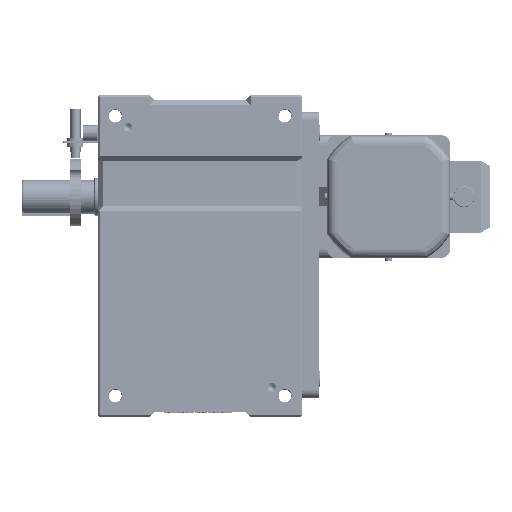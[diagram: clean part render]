
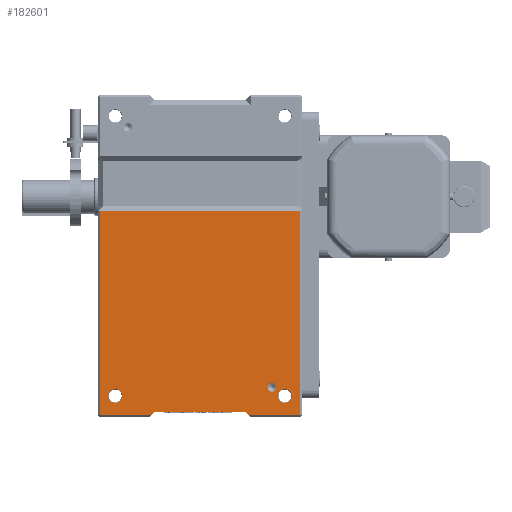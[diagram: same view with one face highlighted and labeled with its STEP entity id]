
A CAD part, front view. The second image highlights one B-rep face of the part: STEP entity #182601.
In plain terms, the highlighted planar face has unit normal (0, -1, 0).
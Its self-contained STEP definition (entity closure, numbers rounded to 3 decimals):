
#2119 = DIRECTION ( 'NONE',  ( 0., 0., -1. ) ) ;
#2538 = ORIENTED_EDGE ( 'NONE', *, *, #102471, .F. ) ;
#5212 = CIRCLE ( 'NONE', #57341, 8.025 ) ;
#8044 = VECTOR ( 'NONE', #121779, 1000. ) ;
#9079 = CARTESIAN_POINT ( 'NONE',  ( 58., -130., -188. ) ) ;
#13694 = CARTESIAN_POINT ( 'NONE',  ( 54., -130., -184. ) ) ;
#14339 = VERTEX_POINT ( 'NONE', #242177 ) ;
#16286 = CARTESIAN_POINT ( 'NONE',  ( -118., -130., -188. ) ) ;
#16567 = ORIENTED_EDGE ( 'NONE', *, *, #98898, .F. ) ;
#16735 = AXIS2_PLACEMENT_3D ( 'NONE', #84657, #215589, #103573 ) ;
#16806 = VECTOR ( 'NONE', #143014, 1000. ) ;
#18361 = EDGE_LOOP ( 'NONE', ( #30800, #201411 ) ) ;
#18985 = DIRECTION ( 'NONE',  ( 1., 0., 0. ) ) ;
#20424 = ORIENTED_EDGE ( 'NONE', *, *, #95669, .F. ) ;
#24518 = CARTESIAN_POINT ( 'NONE',  ( 100., -130., -156.975 ) ) ;
#25424 = CARTESIAN_POINT ( 'NONE',  ( 118., -130., 53. ) ) ;
#26475 = VECTOR ( 'NONE', #224641, 1000. ) ;
#28600 = CARTESIAN_POINT ( 'NONE',  ( 100., -130., -165. ) ) ;
#30800 = ORIENTED_EDGE ( 'NONE', *, *, #95940, .F. ) ;
#32422 = CARTESIAN_POINT ( 'NONE',  ( 0., -130., -188. ) ) ;
#32803 = VECTOR ( 'NONE', #59860, 1000. ) ;
#36718 = VERTEX_POINT ( 'NONE', #126481 ) ;
#40394 = FACE_BOUND ( 'NONE', #94676, .T. ) ;
#41471 = EDGE_CURVE ( 'NONE', #109871, #70604, #86166, .T. ) ;
#45240 = CARTESIAN_POINT ( 'NONE',  ( 0., -130., -188. ) ) ;
#47419 = DIRECTION ( 'NONE',  ( 0., 0., -1. ) ) ;
#50988 = DIRECTION ( 'NONE',  ( 0., -1., 0. ) ) ;
#53211 = ORIENTED_EDGE ( 'NONE', *, *, #95648, .F. ) ;
#57341 = AXIS2_PLACEMENT_3D ( 'NONE', #216433, #104441, #235293 ) ;
#58249 = VECTOR ( 'NONE', #163824, 1000. ) ;
#59860 = DIRECTION ( 'NONE',  ( -0.707, 0., 0.707 ) ) ;
#59971 = VERTEX_POINT ( 'NONE', #25424 ) ;
#60215 = VECTOR ( 'NONE', #18985, 1000. ) ;
#66040 = VERTEX_POINT ( 'NONE', #236123 ) ;
#69612 = VERTEX_POINT ( 'NONE', #160124 ) ;
#69639 = EDGE_CURVE ( 'NONE', #99822, #197794, #5212, .T. ) ;
#70604 = VERTEX_POINT ( 'NONE', #113938 ) ;
#73637 = AXIS2_PLACEMENT_3D ( 'NONE', #28600, #160000, #47419 ) ;
#76446 = LINE ( 'NONE', #168278, #26475 ) ;
#77812 = EDGE_CURVE ( 'NONE', #36718, #66040, #188291, .T. ) ;
#84657 = CARTESIAN_POINT ( 'NONE',  ( -100., -130., -165. ) ) ;
#85099 = CARTESIAN_POINT ( 'NONE',  ( 0., -130., 0. ) ) ;
#85841 = EDGE_CURVE ( 'NONE', #234421, #69612, #140958, .T. ) ;
#85954 = EDGE_LOOP ( 'NONE', ( #53211, #152245 ) ) ;
#86166 = LINE ( 'NONE', #100871, #112568 ) ;
#90554 = FACE_BOUND ( 'NONE', #85954, .T. ) ;
#94676 = EDGE_LOOP ( 'NONE', ( #20424, #222175 ) ) ;
#94882 = CIRCLE ( 'NONE', #128755, 5.025 ) ;
#95648 = EDGE_CURVE ( 'NONE', #69612, #234421, #94882, .T. ) ;
#95669 = EDGE_CURVE ( 'NONE', #66040, #36718, #144758, .T. ) ;
#95940 = EDGE_CURVE ( 'NONE', #197794, #99822, #147558, .T. ) ;
#95969 = CARTESIAN_POINT ( 'NONE',  ( 118., -130., 0. ) ) ;
#97446 = EDGE_CURVE ( 'NONE', #59971, #174329, #132109, .T. ) ;
#97732 = EDGE_CURVE ( 'NONE', #174329, #103546, #158186, .T. ) ;
#98898 = EDGE_CURVE ( 'NONE', #103546, #109871, #182588, .T. ) ;
#99536 = EDGE_CURVE ( 'NONE', #70604, #165492, #76446, .T. ) ;
#99822 = VERTEX_POINT ( 'NONE', #24518 ) ;
#100871 = CARTESIAN_POINT ( 'NONE',  ( 0., -130., -184. ) ) ;
#101173 = ORIENTED_EDGE ( 'NONE', *, *, #41471, .F. ) ;
#101232 = CARTESIAN_POINT ( 'NONE',  ( 85., -130., -155. ) ) ;
#101340 = EDGE_CURVE ( 'NONE', #165492, #206428, #184293, .T. ) ;
#101379 = EDGE_CURVE ( 'NONE', #206428, #14339, #160862, .T. ) ;
#102387 = CARTESIAN_POINT ( 'NONE',  ( 85., -130., -155. ) ) ;
#102471 = EDGE_CURVE ( 'NONE', #14339, #59971, #160137, .T. ) ;
#103221 = PLANE ( 'NONE',  #223157 ) ;
#103546 = VERTEX_POINT ( 'NONE', #9079 ) ;
#103573 = DIRECTION ( 'NONE',  ( 0., 0., -1. ) ) ;
#104024 = DIRECTION ( 'NONE',  ( 0., 0., 1. ) ) ;
#104441 = DIRECTION ( 'NONE',  ( 0., -1., 0. ) ) ;
#109871 = VERTEX_POINT ( 'NONE', #13694 ) ;
#112568 = VECTOR ( 'NONE', #212945, 1000. ) ;
#113938 = CARTESIAN_POINT ( 'NONE',  ( -54., -130., -184. ) ) ;
#115075 = CARTESIAN_POINT ( 'NONE',  ( 58., -130., -188. ) ) ;
#116457 = ORIENTED_EDGE ( 'NONE', *, *, #97446, .F. ) ;
#120148 = DIRECTION ( 'NONE',  ( 0., 0., -1. ) ) ;
#121283 = DIRECTION ( 'NONE',  ( 0., 0., -1. ) ) ;
#121779 = DIRECTION ( 'NONE',  ( -1., 0., 0. ) ) ;
#126481 = CARTESIAN_POINT ( 'NONE',  ( -100., -130., -156.975 ) ) ;
#128755 = AXIS2_PLACEMENT_3D ( 'NONE', #101232, #232142, #120148 ) ;
#131648 = CARTESIAN_POINT ( 'NONE',  ( 0., -130., 53. ) ) ;
#132109 = LINE ( 'NONE', #95969, #181908 ) ;
#140958 = CIRCLE ( 'NONE', #173840, 5.025 ) ;
#141796 = ORIENTED_EDGE ( 'NONE', *, *, #99536, .F. ) ;
#143014 = DIRECTION ( 'NONE',  ( 0., 0., 1. ) ) ;
#144758 = CIRCLE ( 'NONE', #153811, 8.025 ) ;
#147558 = CIRCLE ( 'NONE', #73637, 8.025 ) ;
#149662 = ORIENTED_EDGE ( 'NONE', *, *, #101379, .F. ) ;
#152245 = ORIENTED_EDGE ( 'NONE', *, *, #85841, .F. ) ;
#153811 = AXIS2_PLACEMENT_3D ( 'NONE', #163539, #50988, #182309 ) ;
#158186 = LINE ( 'NONE', #32422, #58249 ) ;
#159495 = CARTESIAN_POINT ( 'NONE',  ( -58., -130., -188. ) ) ;
#160000 = DIRECTION ( 'NONE',  ( 0., -1., 0. ) ) ;
#160124 = CARTESIAN_POINT ( 'NONE',  ( 85., -130., -160.025 ) ) ;
#160137 = LINE ( 'NONE', #131648, #60215 ) ;
#160862 = LINE ( 'NONE', #232962, #16806 ) ;
#163539 = CARTESIAN_POINT ( 'NONE',  ( -100., -130., -165. ) ) ;
#163824 = DIRECTION ( 'NONE',  ( -1., 0., 0. ) ) ;
#164986 = EDGE_LOOP ( 'NONE', ( #149662, #167025, #141796, #101173, #16567, #230621, #116457, #2538 ) ) ;
#165492 = VERTEX_POINT ( 'NONE', #159495 ) ;
#167025 = ORIENTED_EDGE ( 'NONE', *, *, #101340, .F. ) ;
#168278 = CARTESIAN_POINT ( 'NONE',  ( -54., -130., -184. ) ) ;
#173840 = AXIS2_PLACEMENT_3D ( 'NONE', #102387, #233286, #121283 ) ;
#174329 = VERTEX_POINT ( 'NONE', #225175 ) ;
#181908 = VECTOR ( 'NONE', #2119, 1000. ) ;
#182309 = DIRECTION ( 'NONE',  ( 0., 0., -1. ) ) ;
#182588 = LINE ( 'NONE', #115075, #32803 ) ;
#182601 = ADVANCED_FACE ( 'NONE', ( #184292, #234027, #40394, #90554 ), #103221, .F. ) ;
#184293 = LINE ( 'NONE', #45240, #8044 ) ;
#184292 = FACE_OUTER_BOUND ( 'NONE', #164986, .T. ) ;
#188291 = CIRCLE ( 'NONE', #16735, 8.025 ) ;
#197794 = VERTEX_POINT ( 'NONE', #228043 ) ;
#201411 = ORIENTED_EDGE ( 'NONE', *, *, #69639, .F. ) ;
#206428 = VERTEX_POINT ( 'NONE', #16286 ) ;
#212945 = DIRECTION ( 'NONE',  ( -1., 0., 0. ) ) ;
#215589 = DIRECTION ( 'NONE',  ( 0., -1., 0. ) ) ;
#216045 = DIRECTION ( 'NONE',  ( 0., 1., 0. ) ) ;
#216433 = CARTESIAN_POINT ( 'NONE',  ( 100., -130., -165. ) ) ;
#222175 = ORIENTED_EDGE ( 'NONE', *, *, #77812, .F. ) ;
#222984 = CARTESIAN_POINT ( 'NONE',  ( 85., -130., -149.975 ) ) ;
#223157 = AXIS2_PLACEMENT_3D ( 'NONE', #85099, #216045, #104024 ) ;
#224641 = DIRECTION ( 'NONE',  ( -0.707, 0., -0.707 ) ) ;
#225175 = CARTESIAN_POINT ( 'NONE',  ( 118., -130., -188. ) ) ;
#228043 = CARTESIAN_POINT ( 'NONE',  ( 100., -130., -173.025 ) ) ;
#230621 = ORIENTED_EDGE ( 'NONE', *, *, #97732, .F. ) ;
#232142 = DIRECTION ( 'NONE',  ( 0., -1., 0. ) ) ;
#232962 = CARTESIAN_POINT ( 'NONE',  ( -118., -130., 0. ) ) ;
#233286 = DIRECTION ( 'NONE',  ( 0., -1., 0. ) ) ;
#234027 = FACE_BOUND ( 'NONE', #18361, .T. ) ;
#234421 = VERTEX_POINT ( 'NONE', #222984 ) ;
#235293 = DIRECTION ( 'NONE',  ( 0., 0., -1. ) ) ;
#236123 = CARTESIAN_POINT ( 'NONE',  ( -100., -130., -173.025 ) ) ;
#242177 = CARTESIAN_POINT ( 'NONE',  ( -118., -130., 53. ) ) ;
